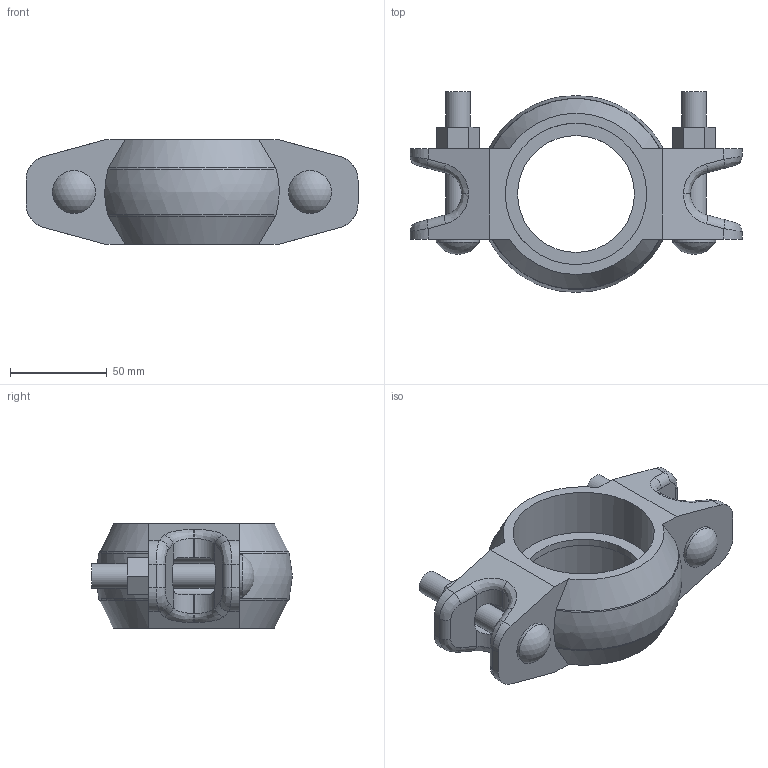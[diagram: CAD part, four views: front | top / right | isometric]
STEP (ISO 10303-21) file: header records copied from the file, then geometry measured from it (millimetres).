
FILE_DESCRIPTION(/* description */ ('QUICKVIC RIGID COUPLING FOR STEEL STYLE 107N','CAx-IF Rec.Pracs.---Representation and Presentation of Product Manufacturing Information (PMI)---4.0---2014-10-13'),/* implementation_level */ '2;1');
FILE_NAME(/* name */ 'C:\Users\Vjadhav\Desktop\CAD for Inventor\1\Coupling bolt thickness\107N\STEP\Victaulic_IPS_Coupling Rigid_Style 107N (OGS)\Victaulic_IPS_Coupling Rigid_Style 107N (OGS)_2.5 (65).stp',/* time_stamp */ '2022-03-28T14:19:02+06:00',/* author */ ('jheald'),/* organization */ ('Victaulic'),/* preprocessor_version */ 'ST-DEVELOPER v17.2',/* originating_system */ 'Autodesk Inventor 2019',/* authorisation */ '');
FILE_SCHEMA (('AP242_MANAGED_MODEL_BASED_3D_ENGINEERING_MIM_LF { 1 0 10303 442 1 1 4 }'));
Length unit declared in the file: inch
Products named in the file (1): 107N-02.5
Bounding box: 171.45 x 103.63 x 54.1 mm (x, y, z)
Volume: 285509.3 mm3; surface area: 59058.5 mm2
Topology: 1 solids, 1 shells, 123 faces, 327 edges, 210 vertices
Faces by surface type: plane 50, cylinder 45, bspline 18, cone 4, torus 4, sphere 2
Full cylindrical faces by diameter (mm): 12.7 x4, 22.225 x2, 60.325 x1, 73.025 x2
Entity records: 4704 total; most frequent: CARTESIAN_POINT 1366, DIRECTION 671, ORIENTED_EDGE 654, EDGE_CURVE 327, AXIS2_PLACEMENT_3D 253, VERTEX_POINT 210, LINE 165, VECTOR 165
